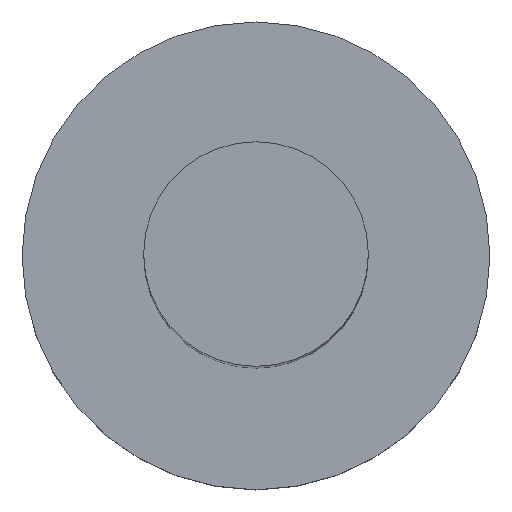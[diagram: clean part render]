
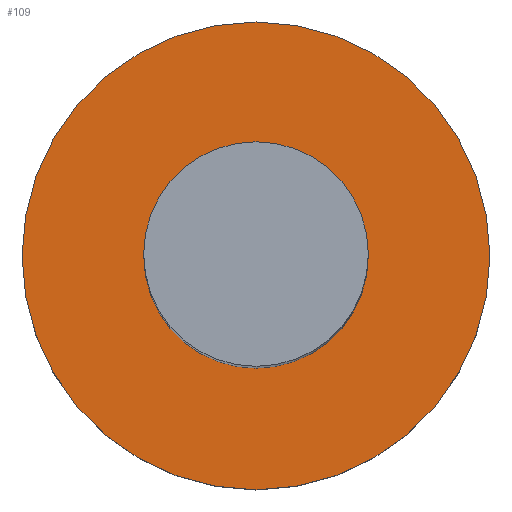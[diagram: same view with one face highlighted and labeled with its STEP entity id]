
A CAD part, top view. The second image highlights one B-rep face of the part: STEP entity #109.
In plain terms, the highlighted planar face has unit normal (0, 0, 1).
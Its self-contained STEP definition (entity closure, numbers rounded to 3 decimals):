
#21 = EDGE_CURVE('',#22,#22,#24,.T.);
#22 = VERTEX_POINT('',#23);
#23 = CARTESIAN_POINT('',(0.6,0.,1.3));
#24 = SURFACE_CURVE('',#25,(#30,#42),.PCURVE_S1.);
#25 = CIRCLE('',#26,0.6);
#26 = AXIS2_PLACEMENT_3D('',#27,#28,#29);
#27 = CARTESIAN_POINT('',(0.,0.,1.3));
#28 = DIRECTION('',(0.,0.,-1.));
#29 = DIRECTION('',(1.,0.,0.));
#30 = PCURVE('',#31,#36);
#31 = CYLINDRICAL_SURFACE('',#32,0.6);
#32 = AXIS2_PLACEMENT_3D('',#33,#34,#35);
#33 = CARTESIAN_POINT('',(0.,0.,1.29));
#34 = DIRECTION('',(-0.,-0.,-1.));
#35 = DIRECTION('',(1.,0.,0.));
#36 = DEFINITIONAL_REPRESENTATION('',(#37),#41);
#37 = LINE('',#38,#39);
#38 = CARTESIAN_POINT('',(-6.283,-0.01));
#39 = VECTOR('',#40,1.);
#40 = DIRECTION('',(1.,-0.));
#41 = ( GEOMETRIC_REPRESENTATION_CONTEXT(2) 
PARAMETRIC_REPRESENTATION_CONTEXT() REPRESENTATION_CONTEXT('2D SPACE',''
  ) );
#42 = PCURVE('',#43,#48);
#43 = PLANE('',#44);
#44 = AXIS2_PLACEMENT_3D('',#45,#46,#47);
#45 = CARTESIAN_POINT('',(0.,0.,1.3));
#46 = DIRECTION('',(0.,0.,1.));
#47 = DIRECTION('',(1.,0.,-0.));
#48 = DEFINITIONAL_REPRESENTATION('',(#49),#57);
#49 = ( BOUNDED_CURVE() B_SPLINE_CURVE(2,(#50,#51,#52,#53,#54,#55,#56),
.UNSPECIFIED.,.T.,.F.) B_SPLINE_CURVE_WITH_KNOTS((1,2,2,2,2,1),(
    -2.094,0.,2.094,4.189,6.283,
8.378),.UNSPECIFIED.) CURVE() GEOMETRIC_REPRESENTATION_ITEM() 
RATIONAL_B_SPLINE_CURVE((1.,0.5,1.,0.5,1.,0.5,1.)) REPRESENTATION_ITEM(
  '') );
#50 = CARTESIAN_POINT('',(0.6,0.));
#51 = CARTESIAN_POINT('',(0.6,-1.039));
#52 = CARTESIAN_POINT('',(-0.3,-0.52));
#53 = CARTESIAN_POINT('',(-1.2,0.));
#54 = CARTESIAN_POINT('',(-0.3,0.52));
#55 = CARTESIAN_POINT('',(0.6,1.039));
#56 = CARTESIAN_POINT('',(0.6,0.));
#57 = ( GEOMETRIC_REPRESENTATION_CONTEXT(2) 
PARAMETRIC_REPRESENTATION_CONTEXT() REPRESENTATION_CONTEXT('2D SPACE',''
  ) );
#109 = ADVANCED_FACE('',(#110,#141),#43,.T.);
#110 = FACE_BOUND('',#111,.T.);
#111 = EDGE_LOOP('',(#112));
#112 = ORIENTED_EDGE('',*,*,#113,.T.);
#113 = EDGE_CURVE('',#114,#114,#116,.T.);
#114 = VERTEX_POINT('',#115);
#115 = CARTESIAN_POINT('',(1.25,0.,1.3));
#116 = SURFACE_CURVE('',#117,(#122,#129),.PCURVE_S1.);
#117 = CIRCLE('',#118,1.25);
#118 = AXIS2_PLACEMENT_3D('',#119,#120,#121);
#119 = CARTESIAN_POINT('',(0.,0.,1.3));
#120 = DIRECTION('',(0.,0.,1.));
#121 = DIRECTION('',(1.,0.,0.));
#122 = PCURVE('',#43,#123);
#123 = DEFINITIONAL_REPRESENTATION('',(#124),#128);
#124 = CIRCLE('',#125,1.25);
#125 = AXIS2_PLACEMENT_2D('',#126,#127);
#126 = CARTESIAN_POINT('',(0.,0.));
#127 = DIRECTION('',(1.,0.));
#128 = ( GEOMETRIC_REPRESENTATION_CONTEXT(2) 
PARAMETRIC_REPRESENTATION_CONTEXT() REPRESENTATION_CONTEXT('2D SPACE',''
  ) );
#129 = PCURVE('',#130,#135);
#130 = CYLINDRICAL_SURFACE('',#131,1.25);
#131 = AXIS2_PLACEMENT_3D('',#132,#133,#134);
#132 = CARTESIAN_POINT('',(0.,0.,0.7));
#133 = DIRECTION('',(-0.,-0.,-1.));
#134 = DIRECTION('',(1.,0.,0.));
#135 = DEFINITIONAL_REPRESENTATION('',(#136),#140);
#136 = LINE('',#137,#138);
#137 = CARTESIAN_POINT('',(-0.,-0.6));
#138 = VECTOR('',#139,1.);
#139 = DIRECTION('',(-1.,0.));
#140 = ( GEOMETRIC_REPRESENTATION_CONTEXT(2) 
PARAMETRIC_REPRESENTATION_CONTEXT() REPRESENTATION_CONTEXT('2D SPACE',''
  ) );
#141 = FACE_BOUND('',#142,.T.);
#142 = EDGE_LOOP('',(#143));
#143 = ORIENTED_EDGE('',*,*,#21,.T.);
